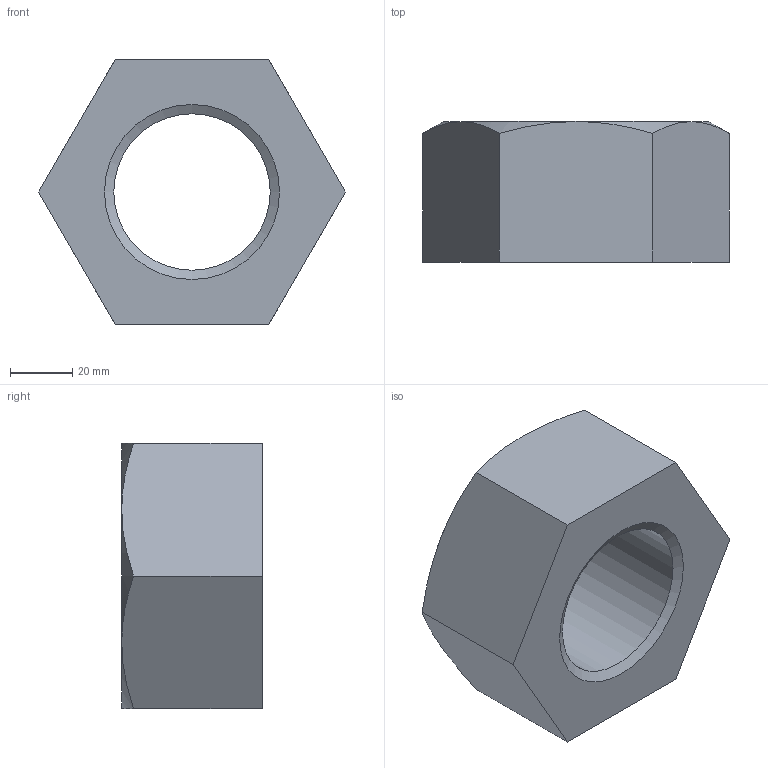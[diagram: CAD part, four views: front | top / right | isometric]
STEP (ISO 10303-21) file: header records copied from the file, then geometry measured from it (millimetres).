
FILE_DESCRIPTION(/* description */ (''),/* implementation_level */ '2;1');
FILE_NAME(/* name */ 'C:\Users\unitec\Desktop\ナット1種 中\M56.stp',/* time_stamp */ '2014-05-08T16:46:55+09:00',/* author */ ('unitec'),/* organization */ (''),/* preprocessor_version */ 'ST-DEVELOPER v15.2',/* originating_system */ 'Autodesk Inventor 2014',/* authorisation */ '');
FILE_SCHEMA (('AUTOMOTIVE_DESIGN { 1 0 10303 214 3 1 1 }'));
Length unit declared in the file: millimetre
Products named in the file (1): M56
Bounding box: 98.15 x 45 x 85 mm (x, y, z)
Volume: 191543.5 mm3; surface area: 28224.8 mm2
Topology: 1 solids, 1 shells, 17 faces, 37 edges, 22 vertices
Faces by surface type: cone 8, plane 8, cylinder 1
Full cylindrical faces by diameter (mm): 50.046 x1
Entity records: 455 total; most frequent: CARTESIAN_POINT 98, ORIENTED_EDGE 68, DIRECTION 68, EDGE_CURVE 34, AXIS2_PLACEMENT_3D 28, EDGE_LOOP 22, VERTEX_POINT 22, ADVANCED_FACE 17
